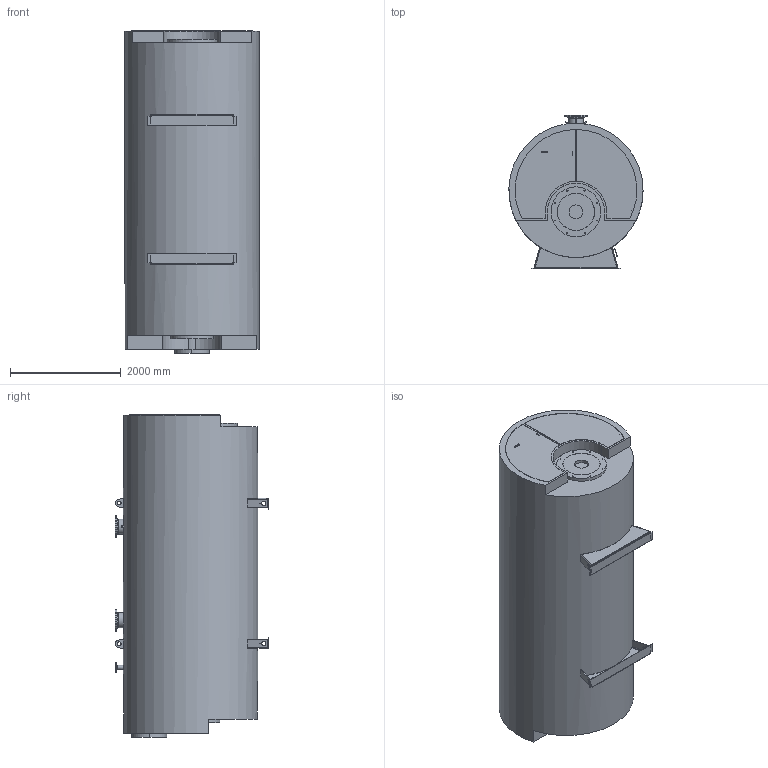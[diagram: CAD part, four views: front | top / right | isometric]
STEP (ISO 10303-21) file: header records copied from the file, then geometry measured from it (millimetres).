
FILE_DESCRIPTION(('TFLEX Exchange Step'),'2;1');
FILE_NAME('M62D026_7550661_T002.stp', '2024-08-09T13:24:50+03:00',('kort'),('Unknown organisation'),'TFLEX Exchange 2024.2','T-FLEX CAD','Unknown authorisation');
FILE_SCHEMA( ('AP242_MANAGED_MODEL_BASED_3D_ENGINEERING_MIM_LF {1 0 10303 442 1 1 4 }') );
Length unit declared in the file: millimetre
Products named in the file (1): 7550661_Grundkessel M62D026_T002
Bounding box: 2417.64 x 2765 x 5814.2 mm (x, y, z)
Volume: 25578069748.4 mm3; surface area: 57653304.2 mm2
Topology: 25 solids, 34 shells, 609 faces, 1549 edges, 1055 vertices
Faces by surface type: plane 333, cylinder 158, bspline 95, torus 12, cone 11
Full cylindrical faces by diameter (mm): 1 x1, 2.2 x4, 3.2 x4, 3.3 x4, 4 x4, 6.5 x4, 13 x4, 14 x8, 18 x4, 18.63 x2, 26 x24, 26.9 x2, 67.1 x1, 70 x2, 70.3 x1, 76.1 x1, 80 x4, 122 x1, 185 x1, 250 x1, 253 x2, 260.4 x2, 273 x2, 320 x2, 405 x2, 760 x1, 898.723 x1, 2419 x1
Entity records: 27312 total; most frequent: CARTESIAN_POINT 12222, ORIENTED_EDGE 3096, DIRECTION 2758, EDGE_CURVE 1548, VERTEX_POINT 1055, AXIS2_PLACEMENT_3D 949, VECTOR 860, LINE 860
